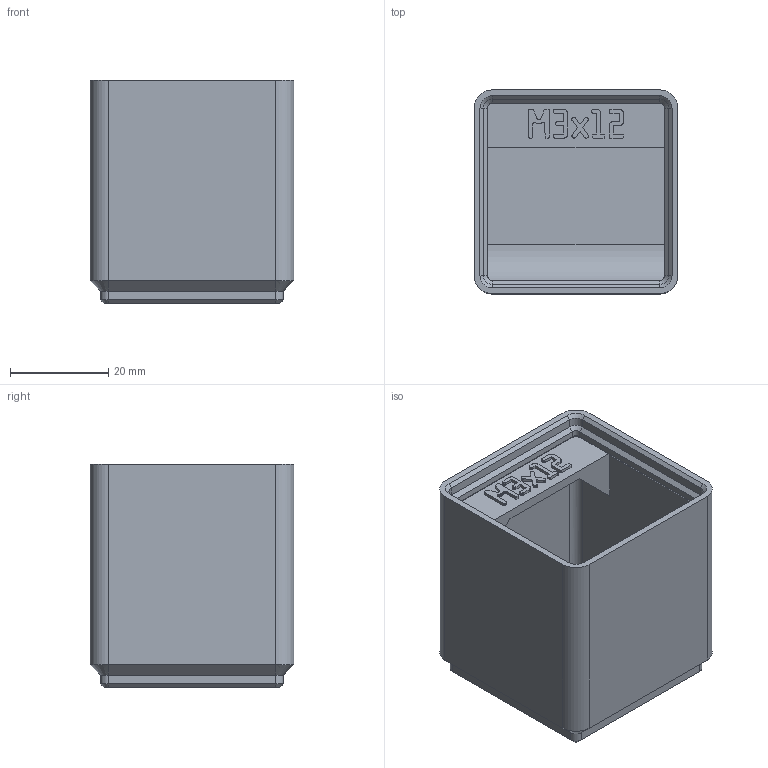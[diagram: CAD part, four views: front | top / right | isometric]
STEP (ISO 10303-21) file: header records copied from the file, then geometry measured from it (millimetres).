
FILE_DESCRIPTION(('Open CASCADE Model'),'2;1');
FILE_NAME('Open CASCADE Shape Model','2026-11-03T10:36:11',('Author'),( 'Open CASCADE'),'Open CASCADE STEP processor 8.0','build123d', 'Unknown');
FILE_SCHEMA(('AUTOMOTIVE_DESIGN { 1 0 10303 214 1 1 1 1 }'));
Length unit declared in the file: millimetre
Products named in the file (1): COMPOUND
Bounding box: 41.5 x 41.5 x 45.55 mm (x, y, z)
Volume: 24943.2 mm3; surface area: 16507.7 mm2
Topology: 1 solids, 1 shells, 631 faces, 1809 edges, 1186 vertices
Faces by surface type: plane 590, cylinder 21, cone 20
Entity records: 42681 total; most frequent: CARTESIAN_POINT 8861, DIRECTION 5436, LINE 4057, VECTOR 4057, ORIENTED_EDGE 3618, PCURVE 3618, DEFINITIONAL_REPRESENTATION 3618, EDGE_CURVE 1809
